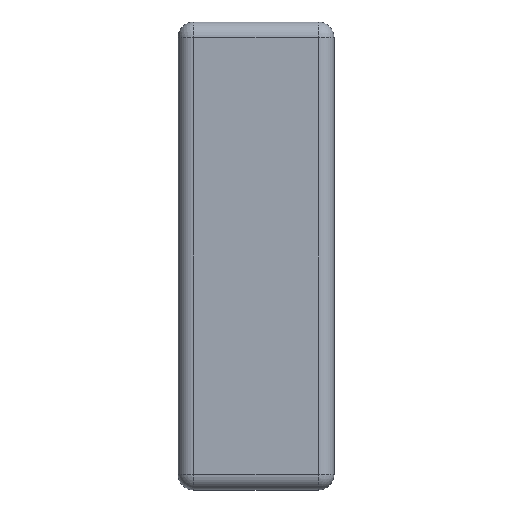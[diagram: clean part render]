
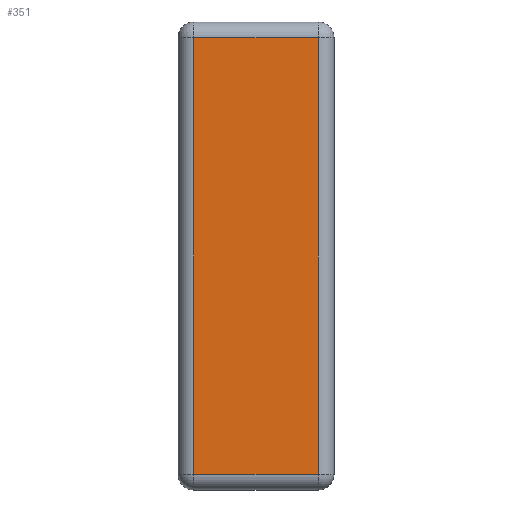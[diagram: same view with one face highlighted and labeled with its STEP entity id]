
A CAD part, left-side view. The second image highlights one B-rep face of the part: STEP entity #351.
In plain terms, the highlighted planar face has unit normal (-1, 0, 0).
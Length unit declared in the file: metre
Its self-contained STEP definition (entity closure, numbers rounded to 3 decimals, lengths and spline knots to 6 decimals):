
#13=PLANE('',#414);
#19=LINE('',#583,#43);
#21=LINE('',#593,#45);
#25=LINE('',#613,#49);
#27=LINE('',#616,#51);
#43=VECTOR('',#464,1.);
#45=VECTOR('',#476,1.);
#49=VECTOR('',#500,1.);
#51=VECTOR('',#504,1.);
#154=ORIENTED_EDGE('',*,*,#190,.F.);
#155=ORIENTED_EDGE('',*,*,#195,.F.);
#156=ORIENTED_EDGE('',*,*,#207,.F.);
#157=ORIENTED_EDGE('',*,*,#205,.F.);
#190=EDGE_CURVE('',#227,#236,#19,.T.);
#195=EDGE_CURVE('',#237,#227,#21,.T.);
#205=EDGE_CURVE('',#236,#245,#25,.T.);
#207=EDGE_CURVE('',#245,#237,#27,.T.);
#227=VERTEX_POINT('',#558);
#236=VERTEX_POINT('',#579);
#237=VERTEX_POINT('',#586);
#245=VERTEX_POINT('',#609);
#291=EDGE_LOOP('',(#154,#155,#156,#157));
#317=FACE_BOUND('',#291,.T.);
#351=ADVANCED_FACE('',(#317),#13,.F.);
#414=AXIS2_PLACEMENT_3D('',#639,#535,#536);
#464=DIRECTION('',(0.,0.,-1.));
#476=DIRECTION('',(0.,-1.,0.));
#500=DIRECTION('',(0.,1.,0.));
#504=DIRECTION('',(0.,0.,1.));
#535=DIRECTION('',(1.,0.,0.));
#536=DIRECTION('',(0.,1.,0.));
#558=CARTESIAN_POINT('',(0.,0.005,-0.005));
#579=CARTESIAN_POINT('',(0.,0.005,-0.145));
#583=CARTESIAN_POINT('',(0.,0.005,-0.0375));
#586=CARTESIAN_POINT('',(0.,0.045,-0.005));
#593=CARTESIAN_POINT('',(0.,0.0375,-0.005));
#609=CARTESIAN_POINT('',(0.,0.045,-0.145));
#613=CARTESIAN_POINT('',(0.,0.0125,-0.145));
#616=CARTESIAN_POINT('',(0.,0.045,-0.1125));
#639=CARTESIAN_POINT('',(0.,0.025,-0.075));
